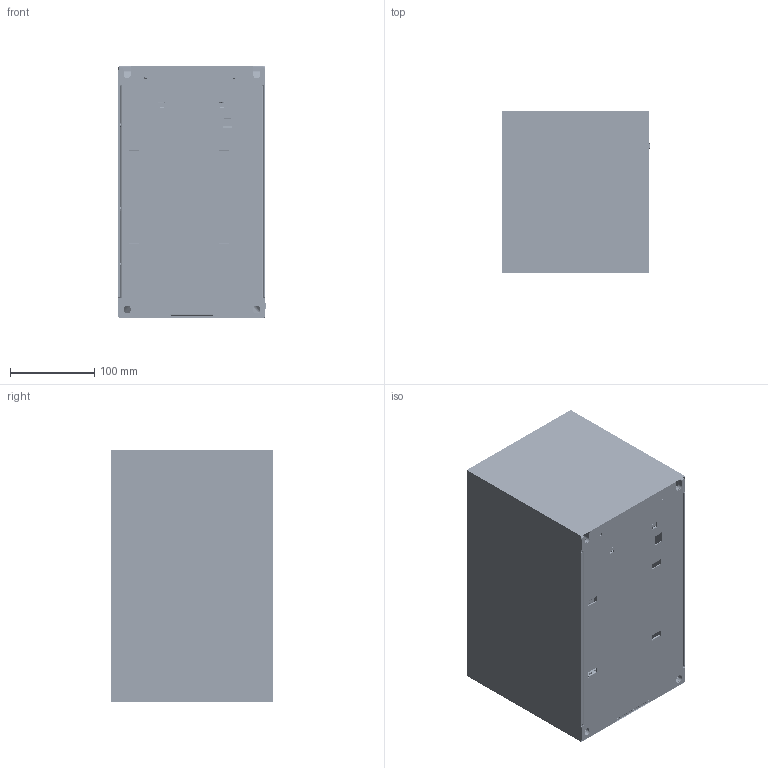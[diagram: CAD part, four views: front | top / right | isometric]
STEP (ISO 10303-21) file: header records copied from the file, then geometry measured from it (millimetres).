
FILE_DESCRIPTION((''),'2;1');
FILE_NAME('ASM0007_ASM_1_ASM','2023-12-28T13:59:02',('EDWARD.LIAO'),(''),'CREO PARAMETRIC BY PTC INC, 2022162','CREO PARAMETRIC BY PTC INC, 2022162','');
FILE_SCHEMA(('AUTOMOTIVE_DESIGN { 1 0 10303 214 1 1 1 1 }'));
Products named in the file (162): VFD-MS300-F1-PD-3D01_1_1; VFD-MS300-F1-PD-3D01_2_1; VFD-MS300-F1-PD-3D01_3_1; VFD-MS300-F1-PD-3D01_4_1; VFD-MS300-F1-PD-3D01_5_1; VFD-MS300-F1-PD-3D01_6_1; VFD-MS300-F1-PD-3D01_38_1; VFD-MS300-F1-PD-3D01_39_1; VFD-MS300-F1-PD-3D01_40_1; VFD-MS300-F1-PD-3D01_41_1; VFD-MS300-F1-PD-3D01_42_1; VFD-MS300-F1-PD-3D01_43_1; VFD-MS300-F1-PD-3D01_44_1; VFD-MS300-F1-PD-3D01_45_1; VFD-MS300-F1-PD-3D01_46_1; VFD-MS300-F1-PD-3D01_47_1; VFD-MS300-F1-PD-3D01_48_1; VFD-MS300-F1-PD-3D01_49_1; VFD-MS300-F1-PD-3D01_50_1; VFD-MS300-F1-PD-3D01_51_1; VFD-MS300-F1-PD-3D01_52_1; VFD-MS300-F1-PD-3D01_53_1; VFD-MS300-F1-PD-3D01_54_1; VFD-MS300-F1-PD-3D01_55_1; VFD-MS300-F1-PD-3D01_56_1; VFD-MS300-F1-PD-3D01_57_1; VFD-MS300-F1-PD-3D01_58_1; VFD-MS300-F1-PD-3D01_59_1; VFD-MS300-F1-PD-3D01_60_1; VFD-MS300-F1-PD-3D01_61_1; VFD-MS300-F1-PD-3D01_62_1; VFD-MS300-F1-PD-3D01_63_1; VFD-MS300-F1-PD-3D01_67_1; VFD-MS300-F1-PD-3D01_68_1; VFD-MS300-F1-PD-3D01_69_1; VFD-MS300-F1-PD-3D01_70_1; VFD-MS300-F1-PD-3D01_72_1; VFD-MS300-F1-PD-3D01_74_1; VFD-MS300-F1-PD-3D01_75_1; VFD-MS300-F1-PD-3D01_76_1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
Assembly tree (161 placements, depth 6):
  ASM0007_ASM_1_ASM
    VFD-MS300-F1-PD-3D01_1_1
    VFD-MS300-F1-PD-3D01_2_1
    VFD-MS300-F1-PD-3D01_3_1
    VFD-MS300-F1-PD-3D01_4_1
    VFD-MS300-F1-PD-3D01_5_1
    VFD-MS300-F1-PD-3D01_6_1
    VFD-MS300-F1-PD-3D01_38_1
    VFD-MS300-F1-PD-3D01_39_1
    VFD-MS300-F1-PD-3D01_40_1
    VFD-MS300-F1-PD-3D01_41_1
    VFD-MS300-F1-PD-3D01_42_1
    VFD-MS300-F1-PD-3D01_43_1
    VFD-MS300-F1-PD-3D01_44_1
    VFD-MS300-F1-PD-3D01_45_1
    VFD-MS300-F1-PD-3D01_46_1
    VFD-MS300-F1-PD-3D01_47_1
    VFD-MS300-F1-PD-3D01_48_1
    VFD-MS300-F1-PD-3D01_49_1
    VFD-MS300-F1-PD-3D01_50_1
    VFD-MS300-F1-PD-3D01_51_1
    VFD-MS300-F1-PD-3D01_52_1
    VFD-MS300-F1-PD-3D01_53_1
    VFD-MS300-F1-PD-3D01_54_1
    VFD-MS300-F1-PD-3D01_55_1
    VFD-MS300-F1-PD-3D01_56_1
    VFD-MS300-F1-PD-3D01_57_1
    VFD-MS300-F1-PD-3D01_58_1
    VFD-MS300-F1-PD-3D01_59_1
    VFD-MS300-F1-PD-3D01_60_1
    VFD-MS300-F1-PD-3D01_61_1
    VFD-MS300-F1-PD-3D01_62_1
    VFD-MS300-F1-PD-3D01_63_1
    VFD-MS300-F1-PD-3D01_67_1
    VFD-MS300-F1-PD-3D01_68_1
    VFD-MS300-F1-PD-3D01_69_1
    VFD-MS300-F1-PD-3D01_70_1
    VFD-MS300-F1-PD-3D01_72_1
    VFD-MS300-F1-PD-3D01_74_1
    VFD-MS300-F1-PD-3D01_75_1
    VFD-MS300-F1-PD-3D01_76_1
    VFD-MS300-F1-PD-3D01_77_1
    VFD-MS300-F1-PD-3D01_78_1
    VFD-MS300-F1-PD-3D01_79_1
    VFD-MS300-F1-PD-3D01_80_1
    VFD-MS300-F1-PD-3D01_82_1
    VFD-MS300-F1-PD-3D01_83_1
    VFD-MS300-F1-PD-3D01_85_1
    VFD-MS300-F1-PD-3D01_86_1
    VFD-MS300-F1-PD-3D01_92_1
    CAD00046461
    MS-CTR_ASM
      CAD0000911465_ASM_1_1_2_ASM_1_ASM
        MS-CTR_2_1_1_2_1
        MS-CTR_3_1_1_2_1
        MS-CTR_4_1_1_2_1
        MS-CTR_5_1_1_2_1
        MS-CTR_6_1_1_2_1
        MS-CTR_7_1_1_2_1
        MS-CTR_8_1_1_2_1
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Bounding box: 175.3 x 193 x 300.3 mm (x, y, z)
Volume: 949190.1 mm3; surface area: 1072786.4 mm2
Topology: 156 solids, 160 shells, 23449 faces, 64815 edges, 41941 vertices
Faces by surface type: plane 13018, cylinder 6154, bspline 1728, cone 1076, torus 788, extrusion 512, sphere 159, revolution 14
Entity records: 1041154 total; most frequent: CARTESIAN_POINT 275312, ORIENTED_EDGE 125854, DIRECTION 112701, EDGE_CURVE 62941, PRESENTATION_STYLE_ASSIGNMENT 48888, STYLED_ITEM 48755, CURVE_STYLE 48343, VECTOR 42367
